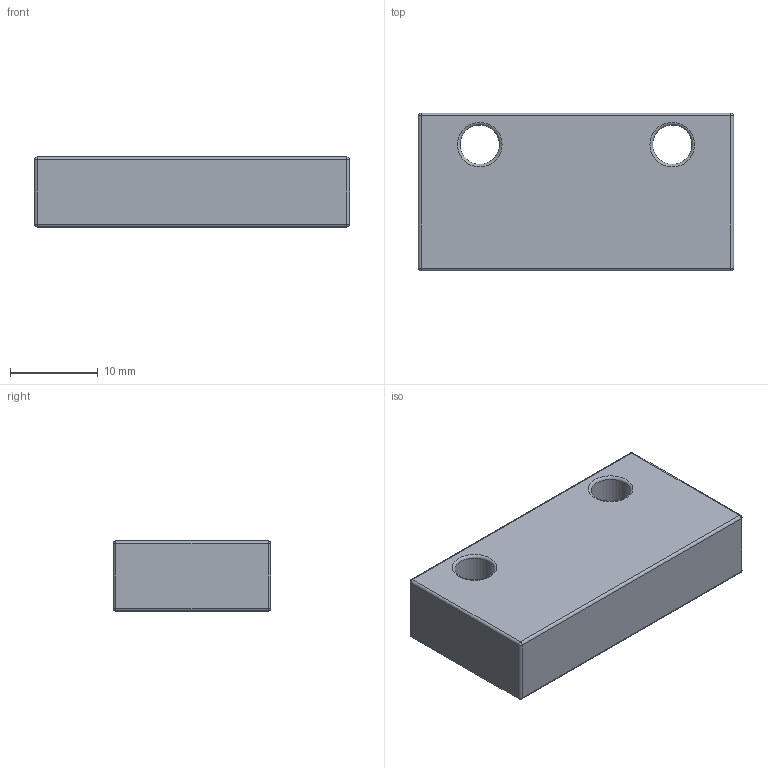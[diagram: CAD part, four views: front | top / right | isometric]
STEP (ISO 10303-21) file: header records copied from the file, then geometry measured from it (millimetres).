
FILE_DESCRIPTION((''),'2;1');
FILE_NAME('Q:\6-Änderungsanträge\3-Genehmigte Änderungsanträge\H-1340\H303668_PSEN_ma1.4_spacer.stp','2016-02-29T11:29:50',('pangold'),(''),'Autodesk Inventor 2013','Autodesk Inventor 2013','');
FILE_SCHEMA(('AUTOMOTIVE_DESIGN { 1 0 10303 214 1 1 1 1 }'));
Length unit declared in the file: millimetre
Products named in the file (1): H303668_PSEN_ma1.4_spacer
Bounding box: 36 x 18 x 8 mm (x, y, z)
Volume: 4917.2 mm3; surface area: 2298 mm2
Topology: 1 solids, 1 shells, 66 faces, 151 edges, 92 vertices
Faces by surface type: plane 37, cylinder 17, sphere 8, torus 4
Full cylindrical faces by diameter (mm): 1.334 x1, 4.5 x2
Entity records: 1888 total; most frequent: DIRECTION 314, CARTESIAN_POINT 299, ORIENTED_EDGE 284, EDGE_CURVE 142, AXIS2_PLACEMENT_3D 105, VECTOR 104, LINE 104, VERTEX_POINT 90
